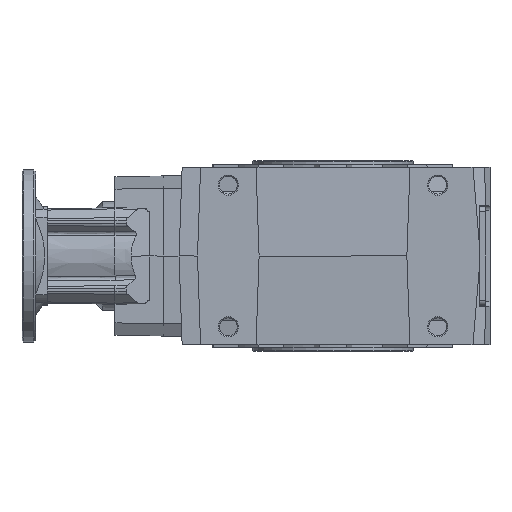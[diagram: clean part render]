
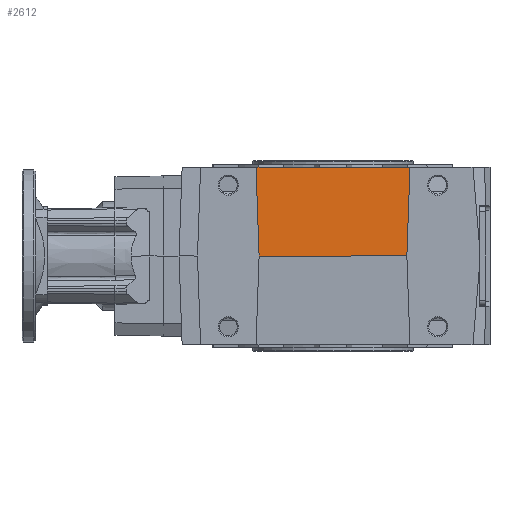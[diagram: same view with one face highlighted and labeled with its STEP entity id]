
A CAD part, front view. The second image highlights one B-rep face of the part: STEP entity #2612.
In plain terms, the highlighted planar face has unit normal (0, -0.999, 0.035).
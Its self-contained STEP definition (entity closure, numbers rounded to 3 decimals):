
#2612 = ADVANCED_FACE( '', ( #5781 ), #5782, .T. );
#5781 = FACE_OUTER_BOUND( '', #10329, .T. );
#5782 = PLANE( '', #10330 );
#10329 = EDGE_LOOP( '', ( #17971, #17972, #17973, #17974 ) );
#10330 = AXIS2_PLACEMENT_3D( '', #17975, #17976, #17977 );
#17971 = ORIENTED_EDGE( '', *, *, #22507, .T. );
#17972 = ORIENTED_EDGE( '', *, *, #20812, .T. );
#17973 = ORIENTED_EDGE( '', *, *, #20960, .T. );
#17974 = ORIENTED_EDGE( '', *, *, #22820, .F. );
#17975 = CARTESIAN_POINT( '', ( 0., -125., 0. ) );
#17976 = DIRECTION( '', ( 0., -0.999, 0.035 ) );
#17977 = DIRECTION( '', ( 0., -0.035, -0.999 ) );
#20812 = EDGE_CURVE( '', #24282, #24652, #24653, .T. );
#20960 = EDGE_CURVE( '', #24652, #24889, #24891, .F. );
#22507 = EDGE_CURVE( '', #27155, #24282, #27159, .F. );
#22820 = EDGE_CURVE( '', #27155, #24889, #27539, .F. );
#24282 = VERTEX_POINT( '', #29845 );
#24652 = VERTEX_POINT( '', #30348 );
#24653 = LINE( '', #30349, #30350 );
#24889 = VERTEX_POINT( '', #30945 );
#24891 = LINE( '', #30948, #30949 );
#27155 = VERTEX_POINT( '', #34671 );
#27159 = LINE( '', #34677, #34678 );
#27539 = LINE( '', #35356, #35357 );
#29845 = CARTESIAN_POINT( '', ( -60., -125., 0. ) );
#30348 = CARTESIAN_POINT( '', ( 60., -125., 0. ) );
#30349 = CARTESIAN_POINT( '', ( 0., -125., 0. ) );
#30350 = VECTOR( '', #37176, 1000. );
#30945 = CARTESIAN_POINT( '', ( 62.514, -122.486, 72. ) );
#30948 = CARTESIAN_POINT( '', ( 59.927, -125.073, -2.09 ) );
#30949 = VECTOR( '', #37341, 1000. );
#34671 = CARTESIAN_POINT( '', ( -62.514, -122.486, 72. ) );
#34677 = CARTESIAN_POINT( '', ( -59.927, -125.073, -2.09 ) );
#34678 = VECTOR( '', #38947, 1000. );
#35356 = CARTESIAN_POINT( '', ( 0., -122.486, 72. ) );
#35357 = VECTOR( '', #39214, 1000. );
#37176 = DIRECTION( '', ( 1., 0., 0. ) );
#37341 = DIRECTION( '', ( -0.035, -0.035, -0.999 ) );
#38947 = DIRECTION( '', ( -0.035, 0.035, 0.999 ) );
#39214 = DIRECTION( '', ( -1., 0., 0. ) );
